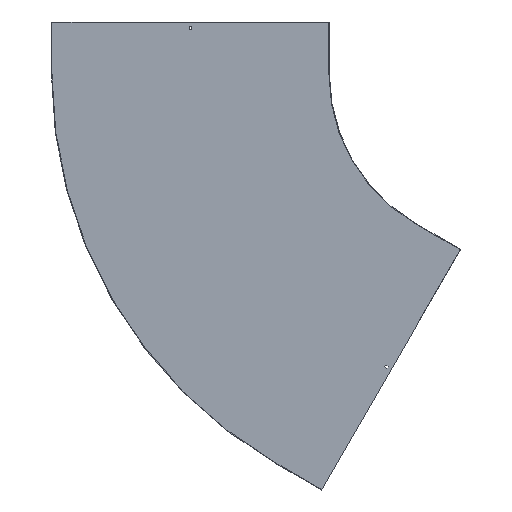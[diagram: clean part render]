
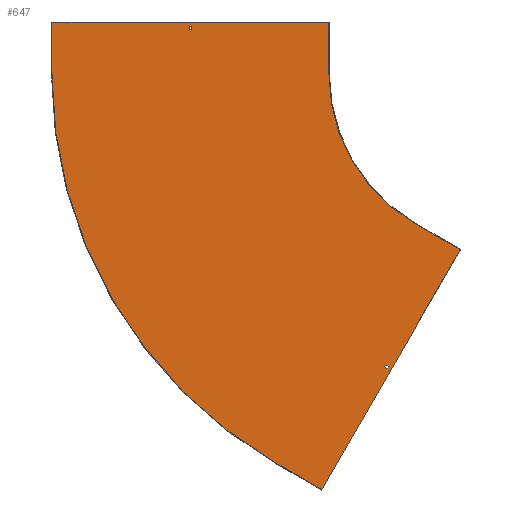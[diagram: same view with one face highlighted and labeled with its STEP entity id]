
A CAD part, front view. The second image highlights one B-rep face of the part: STEP entity #647.
In plain terms, the highlighted planar face has unit normal (0, -1, 0).
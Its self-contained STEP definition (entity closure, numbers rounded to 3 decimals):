
#1 = CARTESIAN_POINT ( 'NONE',  ( -896.75, -1.5, 138. ) ) ;
#6 = DIRECTION ( 'NONE',  ( 0., 0., -1. ) ) ;
#7 = DIRECTION ( 'NONE',  ( 0., 0., -1. ) ) ;
#14 = CARTESIAN_POINT ( 'NONE',  ( -903.25, -1.5, 138. ) ) ;
#18 = ORIENTED_EDGE ( 'NONE', *, *, #65, .F. ) ;
#26 = DIRECTION ( 'NONE',  ( 0., 0., 1. ) ) ;
#31 = EDGE_LOOP ( 'NONE', ( #856, #48, #247, #241 ) ) ;
#48 = ORIENTED_EDGE ( 'NONE', *, *, #720, .T. ) ;
#54 = VECTOR ( 'NONE', #161, 1000. ) ;
#62 = CARTESIAN_POINT ( 'NONE',  ( -250., -1.5, -433.013 ) ) ;
#65 = EDGE_CURVE ( 'NONE', #305, #202, #177, .T. ) ;
#71 = VECTOR ( 'NONE', #288, 1000. ) ;
#90 = CARTESIAN_POINT ( 'NONE',  ( -448.375, -1.5, -776.608 ) ) ;
#109 = DIRECTION ( 'NONE',  ( 0., 0., -1. ) ) ;
#142 = EDGE_LOOP ( 'NONE', ( #724, #560, #199, #778, #558, #748, #190, #166 ) ) ;
#144 = LINE ( 'NONE', #665, #295 ) ;
#158 = CARTESIAN_POINT ( 'NONE',  ( 0., -1.5, 138. ) ) ;
#161 = DIRECTION ( 'NONE',  ( 0.5, 0., 0.866 ) ) ;
#164 = DIRECTION ( 'NONE',  ( -0.866, 0., 0.5 ) ) ;
#165 = EDGE_CURVE ( 'NONE', #379, #450, #773, .T. ) ;
#166 = ORIENTED_EDGE ( 'NONE', *, *, #196, .F. ) ;
#170 = CIRCLE ( 'NONE', #189, 500. ) ;
#177 = LINE ( 'NONE', #762, #54 ) ;
#182 = VERTEX_POINT ( 'NONE', #1 ) ;
#183 = CARTESIAN_POINT ( 'NONE',  ( 0., -1.5, 0. ) ) ;
#185 = DIRECTION ( 'NONE',  ( 0., 0., -1. ) ) ;
#187 = CIRCLE ( 'NONE', #249, 1300. ) ;
#189 = AXIS2_PLACEMENT_3D ( 'NONE', #314, #702, #109 ) ;
#190 = ORIENTED_EDGE ( 'NONE', *, *, #728, .F. ) ;
#194 = VECTOR ( 'NONE', #185, 1000. ) ;
#196 = EDGE_CURVE ( 'NONE', #397, #575, #262, .T. ) ;
#199 = ORIENTED_EDGE ( 'NONE', *, *, #471, .F. ) ;
#202 = VERTEX_POINT ( 'NONE', #246 ) ;
#210 = VERTEX_POINT ( 'NONE', #597 ) ;
#211 = CARTESIAN_POINT ( 'NONE',  ( 0., -1.5, 129. ) ) ;
#224 = VERTEX_POINT ( 'NONE', #784 ) ;
#231 = ORIENTED_EDGE ( 'NONE', *, *, #519, .F. ) ;
#241 = ORIENTED_EDGE ( 'NONE', *, *, #521, .T. ) ;
#244 = DIRECTION ( 'NONE',  ( 0., -1., 0. ) ) ;
#246 = CARTESIAN_POINT ( 'NONE',  ( -328.863, -1.5, -845.608 ) ) ;
#247 = ORIENTED_EDGE ( 'NONE', *, *, #391, .T. ) ;
#249 = AXIS2_PLACEMENT_3D ( 'NONE', #401, #740, #7 ) ;
#253 = VERTEX_POINT ( 'NONE', #465 ) ;
#260 = VERTEX_POINT ( 'NONE', #424 ) ;
#261 = VECTOR ( 'NONE', #760, 1000. ) ;
#262 = LINE ( 'NONE', #587, #194 ) ;
#278 = DIRECTION ( 'NONE',  ( -0.5, 0., -0.866 ) ) ;
#284 = LINE ( 'NONE', #550, #754 ) ;
#287 = LINE ( 'NONE', #90, #591 ) ;
#288 = DIRECTION ( 'NONE',  ( 0.866, 0., -0.5 ) ) ;
#295 = VECTOR ( 'NONE', #603, 1000. ) ;
#304 = CARTESIAN_POINT ( 'NONE',  ( -903.25, -1.5, 0. ) ) ;
#305 = VERTEX_POINT ( 'NONE', #544 ) ;
#314 = CARTESIAN_POINT ( 'NONE',  ( 0., -1.5, 0. ) ) ;
#315 = VECTOR ( 'NONE', #348, 1000. ) ;
#319 = VECTOR ( 'NONE', #426, 1000. ) ;
#335 = EDGE_CURVE ( 'NONE', #637, #305, #284, .T. ) ;
#337 = CARTESIAN_POINT ( 'NONE',  ( -896.75, -1.5, 0. ) ) ;
#340 = DIRECTION ( 'NONE',  ( 0.866, 0., -0.5 ) ) ;
#348 = DIRECTION ( 'NONE',  ( -1., 0., 0. ) ) ;
#379 = VERTEX_POINT ( 'NONE', #62 ) ;
#390 = LINE ( 'NONE', #845, #826 ) ;
#391 = EDGE_CURVE ( 'NONE', #623, #224, #799, .T. ) ;
#393 = CARTESIAN_POINT ( 'NONE',  ( -339.908, -1.5, -846.737 ) ) ;
#397 = VERTEX_POINT ( 'NONE', #461 ) ;
#401 = CARTESIAN_POINT ( 'NONE',  ( 0., -1.5, 0. ) ) ;
#402 = EDGE_CURVE ( 'NONE', #260, #637, #484, .T. ) ;
#411 = CARTESIAN_POINT ( 'NONE',  ( -120.096, -1.5, -508.013 ) ) ;
#424 = CARTESIAN_POINT ( 'NONE',  ( -336.658, -1.5, -841.108 ) ) ;
#426 = DIRECTION ( 'NONE',  ( 1., 0., 0. ) ) ;
#438 = AXIS2_PLACEMENT_3D ( 'NONE', #183, #244, #518 ) ;
#439 = LINE ( 'NONE', #304, #696 ) ;
#448 = FACE_BOUND ( 'NONE', #660, .T. ) ;
#450 = VERTEX_POINT ( 'NONE', #411 ) ;
#458 = PLANE ( 'NONE',  #438 ) ;
#461 = CARTESIAN_POINT ( 'NONE',  ( -500., -1.5, 150. ) ) ;
#465 = CARTESIAN_POINT ( 'NONE',  ( -650., -1.5, -1125.833 ) ) ;
#471 = EDGE_CURVE ( 'NONE', #253, #615, #187, .T. ) ;
#484 = LINE ( 'NONE', #524, #525 ) ;
#518 = DIRECTION ( 'NONE',  ( 0., 0., -1. ) ) ;
#519 = EDGE_CURVE ( 'NONE', #202, #260, #287, .T. ) ;
#521 = EDGE_CURVE ( 'NONE', #224, #625, #439, .T. ) ;
#524 = CARTESIAN_POINT ( 'NONE',  ( 111.717, -1.5, -64.5 ) ) ;
#525 = VECTOR ( 'NONE', #278, 1000. ) ;
#544 = CARTESIAN_POINT ( 'NONE',  ( -332.113, -1.5, -851.237 ) ) ;
#545 = LINE ( 'NONE', #337, #862 ) ;
#550 = CARTESIAN_POINT ( 'NONE',  ( -451.625, -1.5, -782.237 ) ) ;
#558 = ORIENTED_EDGE ( 'NONE', *, *, #573, .F. ) ;
#560 = ORIENTED_EDGE ( 'NONE', *, *, #565, .F. ) ;
#565 = EDGE_CURVE ( 'NONE', #615, #631, #567, .T. ) ;
#567 = LINE ( 'NONE', #824, #642 ) ;
#573 = EDGE_CURVE ( 'NONE', #450, #210, #678, .T. ) ;
#575 = VERTEX_POINT ( 'NONE', #753 ) ;
#580 = FACE_BOUND ( 'NONE', #31, .T. ) ;
#581 = ORIENTED_EDGE ( 'NONE', *, *, #335, .F. ) ;
#583 = EDGE_CURVE ( 'NONE', #625, #182, #630, .T. ) ;
#587 = CARTESIAN_POINT ( 'NONE',  ( -500., -1.5, 150. ) ) ;
#591 = VECTOR ( 'NONE', #164, 1000. ) ;
#592 = DIRECTION ( 'NONE',  ( -0.866, 0., 0.5 ) ) ;
#597 = CARTESIAN_POINT ( 'NONE',  ( -520.096, -1.5, -1200.833 ) ) ;
#603 = DIRECTION ( 'NONE',  ( 1., 0., 0. ) ) ;
#615 = VERTEX_POINT ( 'NONE', #746 ) ;
#618 = DIRECTION ( 'NONE',  ( 0., 0., 1. ) ) ;
#623 = VERTEX_POINT ( 'NONE', #624 ) ;
#624 = CARTESIAN_POINT ( 'NONE',  ( -896.75, -1.5, 129. ) ) ;
#625 = VERTEX_POINT ( 'NONE', #14 ) ;
#630 = LINE ( 'NONE', #158, #319 ) ;
#631 = VERTEX_POINT ( 'NONE', #789 ) ;
#637 = VERTEX_POINT ( 'NONE', #393 ) ;
#642 = VECTOR ( 'NONE', #26, 1000. ) ;
#647 = ADVANCED_FACE ( 'NONE', ( #448, #703, #580 ), #458, .T. ) ;
#660 = EDGE_LOOP ( 'NONE', ( #231, #18, #581, #783 ) ) ;
#664 = EDGE_CURVE ( 'NONE', #210, #253, #390, .T. ) ;
#665 = CARTESIAN_POINT ( 'NONE',  ( -1301.5, -1.5, 150. ) ) ;
#678 = LINE ( 'NONE', #815, #261 ) ;
#696 = VECTOR ( 'NONE', #618, 1000. ) ;
#702 = DIRECTION ( 'NONE',  ( 0., -1., 0. ) ) ;
#703 = FACE_OUTER_BOUND ( 'NONE', #142, .T. ) ;
#720 = EDGE_CURVE ( 'NONE', #182, #623, #545, .T. ) ;
#724 = ORIENTED_EDGE ( 'NONE', *, *, #821, .F. ) ;
#728 = EDGE_CURVE ( 'NONE', #575, #379, #170, .T. ) ;
#740 = DIRECTION ( 'NONE',  ( 0., 1., 0. ) ) ;
#746 = CARTESIAN_POINT ( 'NONE',  ( -1300., -1.5, 0. ) ) ;
#748 = ORIENTED_EDGE ( 'NONE', *, *, #165, .F. ) ;
#753 = CARTESIAN_POINT ( 'NONE',  ( -500., -1.5, 0. ) ) ;
#754 = VECTOR ( 'NONE', #340, 1000. ) ;
#760 = DIRECTION ( 'NONE',  ( -0.5, 0., -0.866 ) ) ;
#762 = CARTESIAN_POINT ( 'NONE',  ( 119.512, -1.5, -69. ) ) ;
#773 = LINE ( 'NONE', #819, #71 ) ;
#778 = ORIENTED_EDGE ( 'NONE', *, *, #664, .F. ) ;
#783 = ORIENTED_EDGE ( 'NONE', *, *, #402, .F. ) ;
#784 = CARTESIAN_POINT ( 'NONE',  ( -903.25, -1.5, 129. ) ) ;
#789 = CARTESIAN_POINT ( 'NONE',  ( -1300., -1.5, 150. ) ) ;
#799 = LINE ( 'NONE', #211, #315 ) ;
#815 = CARTESIAN_POINT ( 'NONE',  ( -119.346, -1.5, -506.714 ) ) ;
#819 = CARTESIAN_POINT ( 'NONE',  ( -250., -1.5, -433.013 ) ) ;
#821 = EDGE_CURVE ( 'NONE', #631, #397, #144, .T. ) ;
#824 = CARTESIAN_POINT ( 'NONE',  ( -1300., -1.5, 0. ) ) ;
#826 = VECTOR ( 'NONE', #592, 1000. ) ;
#845 = CARTESIAN_POINT ( 'NONE',  ( -520.096, -1.5, -1200.833 ) ) ;
#856 = ORIENTED_EDGE ( 'NONE', *, *, #583, .T. ) ;
#862 = VECTOR ( 'NONE', #6, 1000. ) ;
